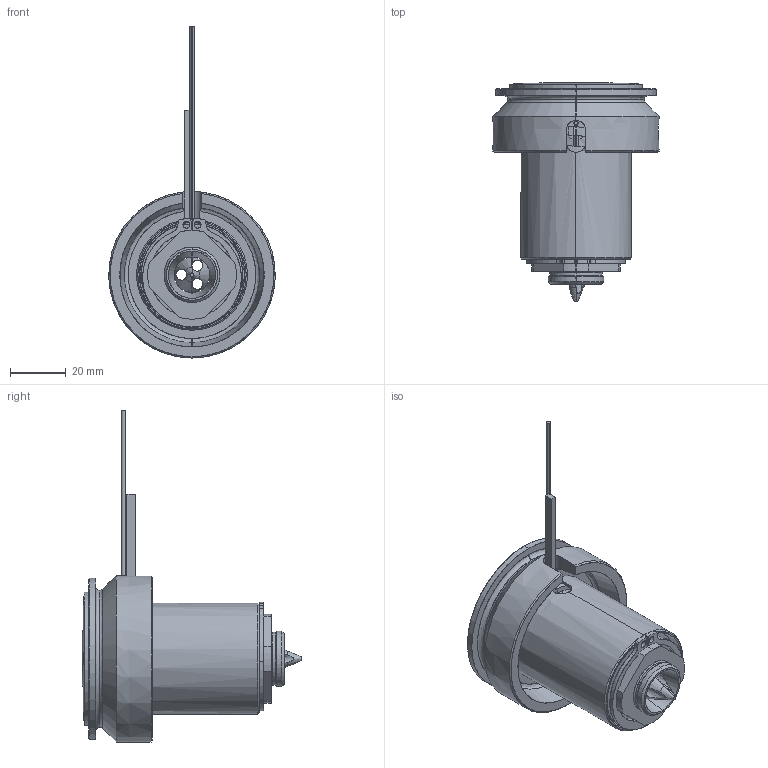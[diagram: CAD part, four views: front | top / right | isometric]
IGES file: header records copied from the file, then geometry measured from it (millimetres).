
Start section: SolidWorks IGES file using analytic representation for surfaces
Global section: file name: C:\Documents and Settings\ws-20\Desktop\TEM\UGEP6002-M-A-1 [Øf-1.3 ØC-15].IGS; native system: SolidWorks 2012; preprocessor: SolidWorks 2012; author: ws-20; date: 120427.092417; units: millimetre
Bounding box: 60 x 79.05 x 119.65 mm (x, y, z)
Surface area: 38898.5 mm2 (no closed solid volume)
Topology: 0 solids, 0 shells, 136 faces, 2583 edges, 2583 vertices
Faces by surface type: revolution 86, bspline 50
